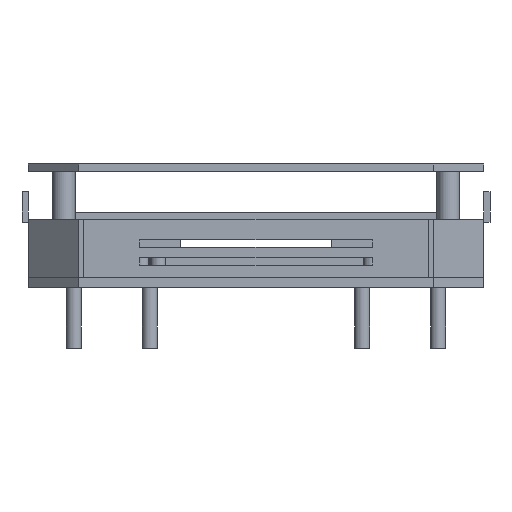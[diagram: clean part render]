
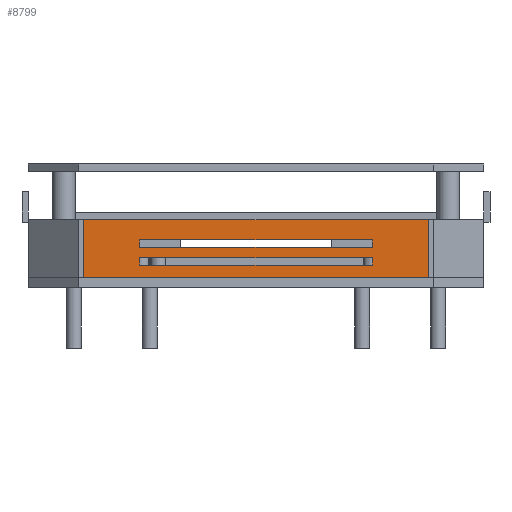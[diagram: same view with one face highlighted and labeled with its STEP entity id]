
A CAD part, front view. The second image highlights one B-rep face of the part: STEP entity #8799.
In plain terms, the highlighted planar face has unit normal (0, -1, 0).
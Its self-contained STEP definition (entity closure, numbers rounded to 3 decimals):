
#8763 = EDGE_CURVE('',#8764,#8766,#8768,.T.);
#8764 = VERTEX_POINT('',#8765);
#8765 = CARTESIAN_POINT('',(-68.,-130.,61.781));
#8766 = VERTEX_POINT('',#8767);
#8767 = CARTESIAN_POINT('',(-68.,-130.,84.781));
#8768 = LINE('',#8769,#8770);
#8769 = CARTESIAN_POINT('',(-68.,-130.,61.781));
#8770 = VECTOR('',#8771,1.);
#8771 = DIRECTION('',(0.,0.,1.));
#8799 = ADVANCED_FACE('',(#8800,#8825,#8859),#8893,.F.);
#8800 = FACE_BOUND('',#8801,.F.);
#8801 = EDGE_LOOP('',(#8802,#8810,#8811,#8819));
#8802 = ORIENTED_EDGE('',*,*,#8803,.F.);
#8803 = EDGE_CURVE('',#8764,#8804,#8806,.T.);
#8804 = VERTEX_POINT('',#8805);
#8805 = CARTESIAN_POINT('',(68.,-130.,61.781));
#8806 = LINE('',#8807,#8808);
#8807 = CARTESIAN_POINT('',(-68.,-130.,61.781));
#8808 = VECTOR('',#8809,1.);
#8809 = DIRECTION('',(1.,0.,0.));
#8810 = ORIENTED_EDGE('',*,*,#8763,.T.);
#8811 = ORIENTED_EDGE('',*,*,#8812,.T.);
#8812 = EDGE_CURVE('',#8766,#8813,#8815,.T.);
#8813 = VERTEX_POINT('',#8814);
#8814 = CARTESIAN_POINT('',(68.,-130.,84.781));
#8815 = LINE('',#8816,#8817);
#8816 = CARTESIAN_POINT('',(-68.,-130.,84.781));
#8817 = VECTOR('',#8818,1.);
#8818 = DIRECTION('',(1.,0.,0.));
#8819 = ORIENTED_EDGE('',*,*,#8820,.F.);
#8820 = EDGE_CURVE('',#8804,#8813,#8821,.T.);
#8821 = LINE('',#8822,#8823);
#8822 = CARTESIAN_POINT('',(68.,-130.,61.781));
#8823 = VECTOR('',#8824,1.);
#8824 = DIRECTION('',(0.,0.,1.));
#8825 = FACE_BOUND('',#8826,.F.);
#8826 = EDGE_LOOP('',(#8827,#8837,#8845,#8853));
#8827 = ORIENTED_EDGE('',*,*,#8828,.F.);
#8828 = EDGE_CURVE('',#8829,#8831,#8833,.T.);
#8829 = VERTEX_POINT('',#8830);
#8830 = CARTESIAN_POINT('',(-46.,-130.,69.781));
#8831 = VERTEX_POINT('',#8832);
#8832 = CARTESIAN_POINT('',(46.,-130.,69.781));
#8833 = LINE('',#8834,#8835);
#8834 = CARTESIAN_POINT('',(-57.,-130.,69.781));
#8835 = VECTOR('',#8836,1.);
#8836 = DIRECTION('',(1.,0.,0.));
#8837 = ORIENTED_EDGE('',*,*,#8838,.T.);
#8838 = EDGE_CURVE('',#8829,#8839,#8841,.T.);
#8839 = VERTEX_POINT('',#8840);
#8840 = CARTESIAN_POINT('',(-46.,-130.,66.781));
#8841 = LINE('',#8842,#8843);
#8842 = CARTESIAN_POINT('',(-46.,-130.,64.281));
#8843 = VECTOR('',#8844,1.);
#8844 = DIRECTION('',(0.,0.,-1.));
#8845 = ORIENTED_EDGE('',*,*,#8846,.T.);
#8846 = EDGE_CURVE('',#8839,#8847,#8849,.T.);
#8847 = VERTEX_POINT('',#8848);
#8848 = CARTESIAN_POINT('',(46.,-130.,66.781));
#8849 = LINE('',#8850,#8851);
#8850 = CARTESIAN_POINT('',(-57.,-130.,66.781));
#8851 = VECTOR('',#8852,1.);
#8852 = DIRECTION('',(1.,0.,0.));
#8853 = ORIENTED_EDGE('',*,*,#8854,.F.);
#8854 = EDGE_CURVE('',#8831,#8847,#8855,.T.);
#8855 = LINE('',#8856,#8857);
#8856 = CARTESIAN_POINT('',(46.,-130.,64.281));
#8857 = VECTOR('',#8858,1.);
#8858 = DIRECTION('',(0.,0.,-1.));
#8859 = FACE_BOUND('',#8860,.F.);
#8860 = EDGE_LOOP('',(#8861,#8871,#8879,#8887));
#8861 = ORIENTED_EDGE('',*,*,#8862,.F.);
#8862 = EDGE_CURVE('',#8863,#8865,#8867,.T.);
#8863 = VERTEX_POINT('',#8864);
#8864 = CARTESIAN_POINT('',(-46.,-130.,76.781));
#8865 = VERTEX_POINT('',#8866);
#8866 = CARTESIAN_POINT('',(46.,-130.,76.781));
#8867 = LINE('',#8868,#8869);
#8868 = CARTESIAN_POINT('',(-57.,-130.,76.781));
#8869 = VECTOR('',#8870,1.);
#8870 = DIRECTION('',(1.,0.,0.));
#8871 = ORIENTED_EDGE('',*,*,#8872,.T.);
#8872 = EDGE_CURVE('',#8863,#8873,#8875,.T.);
#8873 = VERTEX_POINT('',#8874);
#8874 = CARTESIAN_POINT('',(-46.,-130.,73.781));
#8875 = LINE('',#8876,#8877);
#8876 = CARTESIAN_POINT('',(-46.,-130.,67.781));
#8877 = VECTOR('',#8878,1.);
#8878 = DIRECTION('',(0.,0.,-1.));
#8879 = ORIENTED_EDGE('',*,*,#8880,.T.);
#8880 = EDGE_CURVE('',#8873,#8881,#8883,.T.);
#8881 = VERTEX_POINT('',#8882);
#8882 = CARTESIAN_POINT('',(46.,-130.,73.781));
#8883 = LINE('',#8884,#8885);
#8884 = CARTESIAN_POINT('',(-57.,-130.,73.781));
#8885 = VECTOR('',#8886,1.);
#8886 = DIRECTION('',(1.,0.,0.));
#8887 = ORIENTED_EDGE('',*,*,#8888,.F.);
#8888 = EDGE_CURVE('',#8865,#8881,#8889,.T.);
#8889 = LINE('',#8890,#8891);
#8890 = CARTESIAN_POINT('',(46.,-130.,67.781));
#8891 = VECTOR('',#8892,1.);
#8892 = DIRECTION('',(0.,0.,-1.));
#8893 = PLANE('',#8894);
#8894 = AXIS2_PLACEMENT_3D('',#8895,#8896,#8897);
#8895 = CARTESIAN_POINT('',(-68.,-130.,61.781));
#8896 = DIRECTION('',(0.,1.,0.));
#8897 = DIRECTION('',(0.,0.,1.));
